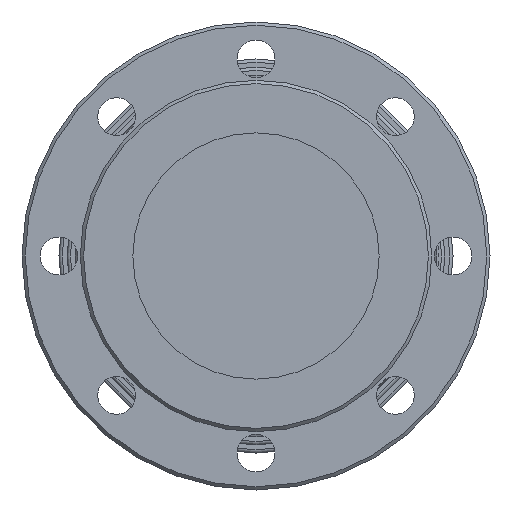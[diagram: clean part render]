
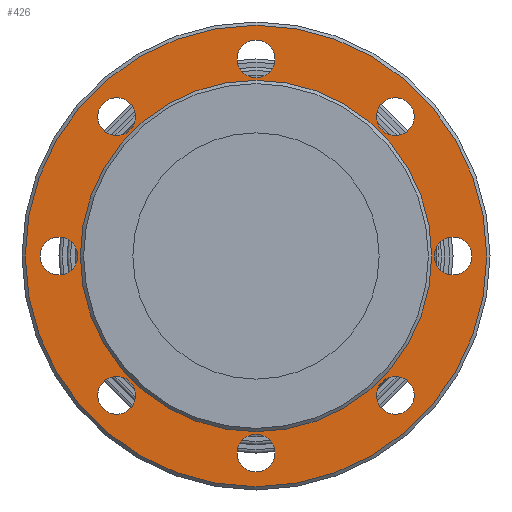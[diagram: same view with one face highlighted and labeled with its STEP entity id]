
A CAD part, front view. The second image highlights one B-rep face of the part: STEP entity #426.
In plain terms, the highlighted planar face has unit normal (0, -1, 0).
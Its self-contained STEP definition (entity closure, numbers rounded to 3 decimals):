
#426=ADVANCED_FACE('',(#1350,#1352,#1354,#1356,#1358,#1360,#1362,#1364,#1366,#1368),
#1370,.F.);
#1350=FACE_BOUND('',#1351,.T.);
#1351=EDGE_LOOP('',(#3806));
#1352=FACE_BOUND('',#1353,.T.);
#1353=EDGE_LOOP('',(#3807));
#1354=FACE_BOUND('',#1355,.T.);
#1355=EDGE_LOOP('',(#3808));
#1356=FACE_BOUND('',#1357,.T.);
#1357=EDGE_LOOP('',(#3809));
#1358=FACE_BOUND('',#1359,.T.);
#1359=EDGE_LOOP('',(#3810));
#1360=FACE_BOUND('',#1361,.T.);
#1361=EDGE_LOOP('',(#3811));
#1362=FACE_BOUND('',#1363,.T.);
#1363=EDGE_LOOP('',(#3812));
#1364=FACE_BOUND('',#1365,.T.);
#1365=EDGE_LOOP('',(#3813));
#1366=FACE_BOUND('',#1367,.T.);
#1367=EDGE_LOOP('',(#3814));
#1368=FACE_BOUND('',#1369,.T.);
#1369=EDGE_LOOP('',(#3815));
#1370=PLANE('',#1371);
#1371=AXIS2_PLACEMENT_3D('',#1372,#1373,#1374);
#1372=CARTESIAN_POINT('',(0.,2.,0.));
#1373=DIRECTION('',(0.,1.,0.));
#1374=DIRECTION('',(1.,0.,0.));
#3806=ORIENTED_EDGE('',*,*,#4603,.F.);
#3807=ORIENTED_EDGE('',*,*,#4602,.F.);
#3808=ORIENTED_EDGE('',*,*,#4601,.F.);
#3809=ORIENTED_EDGE('',*,*,#4599,.F.);
#3810=ORIENTED_EDGE('',*,*,#4597,.F.);
#3811=ORIENTED_EDGE('',*,*,#4595,.F.);
#3812=ORIENTED_EDGE('',*,*,#4593,.F.);
#3813=ORIENTED_EDGE('',*,*,#4591,.F.);
#3814=ORIENTED_EDGE('',*,*,#4589,.F.);
#3815=ORIENTED_EDGE('',*,*,#4587,.F.);
#4587=EDGE_CURVE('',#5006,#5006,#5007,.T.);
#4589=EDGE_CURVE('',#5010,#5010,#5011,.T.);
#4591=EDGE_CURVE('',#5014,#5014,#5015,.T.);
#4593=EDGE_CURVE('',#5018,#5018,#5019,.T.);
#4595=EDGE_CURVE('',#5022,#5022,#5023,.T.);
#4597=EDGE_CURVE('',#5026,#5026,#5027,.T.);
#4599=EDGE_CURVE('',#5030,#5030,#5031,.T.);
#4601=EDGE_CURVE('',#5034,#5034,#5035,.T.);
#4602=EDGE_CURVE('',#5036,#5036,#5037,.T.);
#4603=EDGE_CURVE('',#5038,#5038,#5039,.T.);
#5006=VERTEX_POINT('',#6247);
#5007=CIRCLE('',#6248,11.5);
#5010=VERTEX_POINT('',#6257);
#5011=CIRCLE('',#6258,11.5);
#5014=VERTEX_POINT('',#6267);
#5015=CIRCLE('',#6268,11.5);
#5018=VERTEX_POINT('',#6277);
#5019=CIRCLE('',#6278,11.5);
#5022=VERTEX_POINT('',#6287);
#5023=CIRCLE('',#6288,11.5);
#5026=VERTEX_POINT('',#6297);
#5027=CIRCLE('',#6298,11.5);
#5030=VERTEX_POINT('',#6307);
#5031=CIRCLE('',#6308,11.5);
#5034=VERTEX_POINT('',#6317);
#5035=CIRCLE('',#6318,11.5);
#5036=VERTEX_POINT('',#6322);
#5037=CIRCLE('',#6323,107.);
#5038=VERTEX_POINT('',#6327);
#5039=CIRCLE('',#6328,140.5);
#6247=CARTESIAN_POINT('',(120.,2.,-11.5));
#6248=AXIS2_PLACEMENT_3D('',#6249,#6250,#6251);
#6249=CARTESIAN_POINT('',(120.,2.,0.));
#6250=DIRECTION('',(0.,-1.,0.));
#6251=DIRECTION('',(0.,0.,-1.));
#6257=CARTESIAN_POINT('',(84.853,2.,-96.353));
#6258=AXIS2_PLACEMENT_3D('',#6259,#6260,#6261);
#6259=CARTESIAN_POINT('',(84.853,2.,-84.853));
#6260=DIRECTION('',(0.,-1.,0.));
#6261=DIRECTION('',(0.,0.,-1.));
#6267=CARTESIAN_POINT('',(0.,2.,-131.5));
#6268=AXIS2_PLACEMENT_3D('',#6269,#6270,#6271);
#6269=CARTESIAN_POINT('',(0.,2.,-120.));
#6270=DIRECTION('',(0.,-1.,0.));
#6271=DIRECTION('',(0.,0.,-1.));
#6277=CARTESIAN_POINT('',(-84.853,2.,-96.353));
#6278=AXIS2_PLACEMENT_3D('',#6279,#6280,#6281);
#6279=CARTESIAN_POINT('',(-84.853,2.,-84.853));
#6280=DIRECTION('',(0.,-1.,0.));
#6281=DIRECTION('',(0.,0.,-1.));
#6287=CARTESIAN_POINT('',(-120.,2.,-11.5));
#6288=AXIS2_PLACEMENT_3D('',#6289,#6290,#6291);
#6289=CARTESIAN_POINT('',(-120.,2.,0.));
#6290=DIRECTION('',(0.,-1.,0.));
#6291=DIRECTION('',(0.,0.,-1.));
#6297=CARTESIAN_POINT('',(-84.853,2.,73.353));
#6298=AXIS2_PLACEMENT_3D('',#6299,#6300,#6301);
#6299=CARTESIAN_POINT('',(-84.853,2.,84.853));
#6300=DIRECTION('',(0.,-1.,0.));
#6301=DIRECTION('',(0.,0.,-1.));
#6307=CARTESIAN_POINT('',(0.,2.,108.5));
#6308=AXIS2_PLACEMENT_3D('',#6309,#6310,#6311);
#6309=CARTESIAN_POINT('',(0.,2.,120.));
#6310=DIRECTION('',(0.,-1.,0.));
#6311=DIRECTION('',(0.,0.,-1.));
#6317=CARTESIAN_POINT('',(84.853,2.,73.353));
#6318=AXIS2_PLACEMENT_3D('',#6319,#6320,#6321);
#6319=CARTESIAN_POINT('',(84.853,2.,84.853));
#6320=DIRECTION('',(0.,-1.,0.));
#6321=DIRECTION('',(0.,0.,-1.));
#6322=CARTESIAN_POINT('',(0.,2.,107.));
#6323=AXIS2_PLACEMENT_3D('',#6324,#6325,#6326);
#6324=CARTESIAN_POINT('',(0.,2.,0.));
#6325=DIRECTION('',(0.,-1.,0.));
#6326=DIRECTION('',(0.,0.,1.));
#6327=CARTESIAN_POINT('',(0.,2.,-140.5));
#6328=AXIS2_PLACEMENT_3D('',#6329,#6330,#6331);
#6329=CARTESIAN_POINT('',(0.,2.,0.));
#6330=DIRECTION('',(0.,1.,0.));
#6331=DIRECTION('',(0.,0.,-1.));
